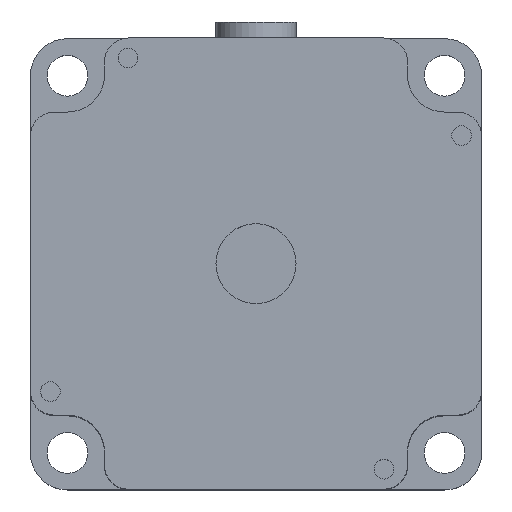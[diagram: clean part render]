
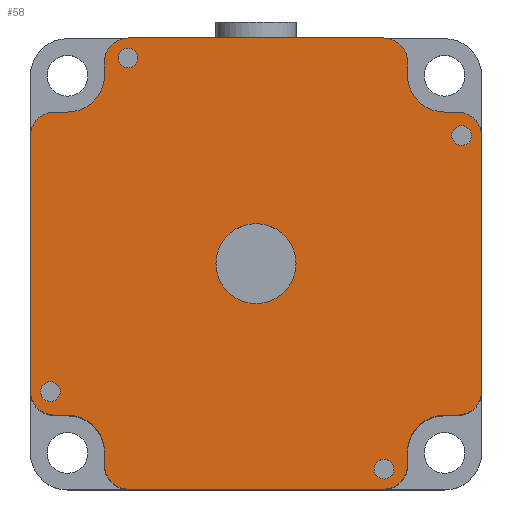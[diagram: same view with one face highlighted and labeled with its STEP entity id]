
A CAD part, top view. The second image highlights one B-rep face of the part: STEP entity #58.
In plain terms, the highlighted planar face has unit normal (0, 0, 1).
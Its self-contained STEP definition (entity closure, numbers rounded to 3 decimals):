
#58=ADVANCED_FACE('',(#5935,#5937,#5939,#5941,#5943,#5945),#5947,.T.);
#5935=FACE_BOUND('',#5936,.T.);
#5936=EDGE_LOOP('',(#10570,#10571,#10572,#10573,#10574,#10575,#10576,#10577,#10578,
#10579,#10580,#10581,#10582,#10583,#10584,#10585,#10586,#10587,#10588,#10589,#10590,
#10591,#10592,#10593));
#5937=FACE_BOUND('',#5938,.T.);
#5938=EDGE_LOOP('',(#10594));
#5939=FACE_BOUND('',#5940,.T.);
#5940=EDGE_LOOP('',(#10595));
#5941=FACE_BOUND('',#5942,.T.);
#5942=EDGE_LOOP('',(#10596));
#5943=FACE_BOUND('',#5944,.T.);
#5944=EDGE_LOOP('',(#10597));
#5945=FACE_BOUND('',#5946,.T.);
#5946=EDGE_LOOP('',(#10598));
#5947=PLANE('',#5948);
#5948=AXIS2_PLACEMENT_3D('',#5949,#5950,#5951);
#5949=CARTESIAN_POINT('',(0.,0.,56.));
#5950=DIRECTION('',(0.,0.,1.));
#5951=DIRECTION('',(1.,0.,0.));
#10570=ORIENTED_EDGE('',*,*,#14441,.F.);
#10571=ORIENTED_EDGE('',*,*,#14442,.T.);
#10572=ORIENTED_EDGE('',*,*,#14443,.F.);
#10573=ORIENTED_EDGE('',*,*,#14444,.T.);
#10574=ORIENTED_EDGE('',*,*,#14445,.T.);
#10575=ORIENTED_EDGE('',*,*,#14446,.T.);
#10576=ORIENTED_EDGE('',*,*,#14447,.F.);
#10577=ORIENTED_EDGE('',*,*,#14448,.T.);
#10578=ORIENTED_EDGE('',*,*,#14449,.F.);
#10579=ORIENTED_EDGE('',*,*,#14450,.T.);
#10580=ORIENTED_EDGE('',*,*,#14451,.T.);
#10581=ORIENTED_EDGE('',*,*,#14452,.T.);
#10582=ORIENTED_EDGE('',*,*,#14453,.F.);
#10583=ORIENTED_EDGE('',*,*,#14454,.T.);
#10584=ORIENTED_EDGE('',*,*,#14455,.F.);
#10585=ORIENTED_EDGE('',*,*,#14456,.T.);
#10586=ORIENTED_EDGE('',*,*,#14457,.T.);
#10587=ORIENTED_EDGE('',*,*,#14458,.T.);
#10588=ORIENTED_EDGE('',*,*,#14459,.F.);
#10589=ORIENTED_EDGE('',*,*,#14460,.T.);
#10590=ORIENTED_EDGE('',*,*,#14461,.F.);
#10591=ORIENTED_EDGE('',*,*,#14462,.T.);
#10592=ORIENTED_EDGE('',*,*,#14463,.T.);
#10593=ORIENTED_EDGE('',*,*,#14464,.T.);
#10594=ORIENTED_EDGE('',*,*,#14465,.T.);
#10595=ORIENTED_EDGE('',*,*,#14466,.T.);
#10596=ORIENTED_EDGE('',*,*,#14467,.T.);
#10597=ORIENTED_EDGE('',*,*,#14468,.T.);
#10598=ORIENTED_EDGE('',*,*,#14469,.T.);
#14441=EDGE_CURVE('',#16236,#16237,#16238,.T.);
#14442=EDGE_CURVE('',#16236,#16239,#16240,.T.);
#14443=EDGE_CURVE('',#16241,#16239,#16242,.T.);
#14444=EDGE_CURVE('',#16241,#16243,#16244,.F.);
#14445=EDGE_CURVE('',#16243,#16245,#16246,.F.);
#14446=EDGE_CURVE('',#16245,#16247,#16248,.F.);
#14447=EDGE_CURVE('',#16249,#16247,#16250,.T.);
#14448=EDGE_CURVE('',#16249,#16251,#16252,.T.);
#14449=EDGE_CURVE('',#16253,#16251,#16254,.T.);
#14450=EDGE_CURVE('',#16253,#16255,#16256,.F.);
#14451=EDGE_CURVE('',#16255,#16257,#16258,.F.);
#14452=EDGE_CURVE('',#16257,#16259,#16260,.F.);
#14453=EDGE_CURVE('',#16261,#16259,#16262,.T.);
#14454=EDGE_CURVE('',#16261,#16263,#16264,.T.);
#14455=EDGE_CURVE('',#16265,#16263,#16266,.T.);
#14456=EDGE_CURVE('',#16265,#16267,#16268,.F.);
#14457=EDGE_CURVE('',#16267,#16269,#16270,.F.);
#14458=EDGE_CURVE('',#16269,#16271,#16272,.F.);
#14459=EDGE_CURVE('',#16273,#16271,#16274,.T.);
#14460=EDGE_CURVE('',#16273,#16275,#16276,.T.);
#14461=EDGE_CURVE('',#16277,#16275,#16278,.T.);
#14462=EDGE_CURVE('',#16277,#16279,#16280,.F.);
#14463=EDGE_CURVE('',#16279,#16281,#16282,.F.);
#14464=EDGE_CURVE('',#16281,#16237,#16283,.F.);
#14465=EDGE_CURVE('',#16284,#16284,#16285,.F.);
#14466=EDGE_CURVE('',#16286,#16286,#16287,.F.);
#14467=EDGE_CURVE('',#16288,#16288,#16289,.F.);
#14468=EDGE_CURVE('',#16290,#16290,#16291,.F.);
#14469=EDGE_CURVE('',#16292,#16292,#16293,.F.);
#16236=VERTEX_POINT('',#19236);
#16237=VERTEX_POINT('',#19237);
#16238=CIRCLE('',#19238,3.);
#16239=VERTEX_POINT('',#19242);
#16240=LINE('',#19243,#19244);
#16241=VERTEX_POINT('',#19246);
#16242=CIRCLE('',#19247,3.);
#16243=VERTEX_POINT('',#19251);
#16244=LINE('',#19252,#19253);
#16245=VERTEX_POINT('',#19255);
#16246=CIRCLE('',#19256,4.63);
#16247=VERTEX_POINT('',#19260);
#16248=LINE('',#19261,#19262);
#16249=VERTEX_POINT('',#19264);
#16250=CIRCLE('',#19265,3.);
#16251=VERTEX_POINT('',#19269);
#16252=LINE('',#19270,#19271);
#16253=VERTEX_POINT('',#19273);
#16254=CIRCLE('',#19274,3.);
#16255=VERTEX_POINT('',#19278);
#16256=LINE('',#19279,#19280);
#16257=VERTEX_POINT('',#19282);
#16258=CIRCLE('',#19283,4.63);
#16259=VERTEX_POINT('',#19287);
#16260=LINE('',#19288,#19289);
#16261=VERTEX_POINT('',#19291);
#16262=CIRCLE('',#19292,3.);
#16263=VERTEX_POINT('',#19296);
#16264=LINE('',#19297,#19298);
#16265=VERTEX_POINT('',#19300);
#16266=CIRCLE('',#19301,3.);
#16267=VERTEX_POINT('',#19305);
#16268=LINE('',#19306,#19307);
#16269=VERTEX_POINT('',#19309);
#16270=CIRCLE('',#19310,4.63);
#16271=VERTEX_POINT('',#19314);
#16272=LINE('',#19315,#19316);
#16273=VERTEX_POINT('',#19318);
#16274=CIRCLE('',#19319,3.);
#16275=VERTEX_POINT('',#19323);
#16276=LINE('',#19324,#19325);
#16277=VERTEX_POINT('',#19327);
#16278=CIRCLE('',#19328,3.);
#16279=VERTEX_POINT('',#19332);
#16280=LINE('',#19333,#19334);
#16281=VERTEX_POINT('',#19336);
#16282=CIRCLE('',#19337,4.63);
#16283=LINE('',#19341,#19342);
#16284=VERTEX_POINT('',#19344);
#16285=CIRCLE('',#19345,1.229);
#16286=VERTEX_POINT('',#19349);
#16287=CIRCLE('',#19350,1.229);
#16288=VERTEX_POINT('',#19354);
#16289=CIRCLE('',#19355,1.229);
#16290=VERTEX_POINT('',#19359);
#16291=CIRCLE('',#19360,5.);
#16292=VERTEX_POINT('',#19364);
#16293=CIRCLE('',#19365,1.229);
#19236=CARTESIAN_POINT('',(28.2,-15.94,56.));
#19237=CARTESIAN_POINT('',(25.2,-18.94,56.));
#19238=AXIS2_PLACEMENT_3D('',#19239,#19240,#19241);
#19239=CARTESIAN_POINT('',(25.2,-15.94,56.));
#19240=DIRECTION('',(0.,0.,-1.));
#19241=DIRECTION('',(1.,0.,0.));
#19242=CARTESIAN_POINT('',(28.2,15.94,56.));
#19243=CARTESIAN_POINT('',(28.2,-15.94,56.));
#19244=VECTOR('',#19245,1.);
#19245=DIRECTION('',(0.,1.,0.));
#19246=CARTESIAN_POINT('',(25.2,18.94,56.));
#19247=AXIS2_PLACEMENT_3D('',#19248,#19249,#19250);
#19248=CARTESIAN_POINT('',(25.2,15.94,56.));
#19249=DIRECTION('',(0.,0.,-1.));
#19250=DIRECTION('',(0.,1.,0.));
#19251=CARTESIAN_POINT('',(23.57,18.94,56.));
#19252=CARTESIAN_POINT('',(23.57,18.94,56.));
#19253=VECTOR('',#19254,1.);
#19254=DIRECTION('',(1.,0.,0.));
#19255=CARTESIAN_POINT('',(18.94,23.57,56.));
#19256=AXIS2_PLACEMENT_3D('',#19257,#19258,#19259);
#19257=CARTESIAN_POINT('',(23.57,23.57,56.));
#19258=DIRECTION('',(0.,0.,1.));
#19259=DIRECTION('',(-1.,0.,0.));
#19260=CARTESIAN_POINT('',(18.94,25.2,56.));
#19261=CARTESIAN_POINT('',(18.94,25.2,56.));
#19262=VECTOR('',#19263,1.);
#19263=DIRECTION('',(0.,-1.,0.));
#19264=CARTESIAN_POINT('',(15.94,28.2,56.));
#19265=AXIS2_PLACEMENT_3D('',#19266,#19267,#19268);
#19266=CARTESIAN_POINT('',(15.94,25.2,56.));
#19267=DIRECTION('',(0.,0.,-1.));
#19268=DIRECTION('',(0.,1.,0.));
#19269=CARTESIAN_POINT('',(-15.94,28.2,56.));
#19270=CARTESIAN_POINT('',(15.94,28.2,56.));
#19271=VECTOR('',#19272,1.);
#19272=DIRECTION('',(-1.,0.,0.));
#19273=CARTESIAN_POINT('',(-18.94,25.2,56.));
#19274=AXIS2_PLACEMENT_3D('',#19275,#19276,#19277);
#19275=CARTESIAN_POINT('',(-15.94,25.2,56.));
#19276=DIRECTION('',(0.,0.,-1.));
#19277=DIRECTION('',(-1.,0.,0.));
#19278=CARTESIAN_POINT('',(-18.94,23.57,56.));
#19279=CARTESIAN_POINT('',(-18.94,23.57,56.));
#19280=VECTOR('',#19281,1.);
#19281=DIRECTION('',(0.,1.,0.));
#19282=CARTESIAN_POINT('',(-23.57,18.94,56.));
#19283=AXIS2_PLACEMENT_3D('',#19284,#19285,#19286);
#19284=CARTESIAN_POINT('',(-23.57,23.57,56.));
#19285=DIRECTION('',(-0.,0.,1.));
#19286=DIRECTION('',(0.,-1.,0.));
#19287=CARTESIAN_POINT('',(-25.2,18.94,56.));
#19288=CARTESIAN_POINT('',(-25.2,18.94,56.));
#19289=VECTOR('',#19290,1.);
#19290=DIRECTION('',(1.,0.,0.));
#19291=CARTESIAN_POINT('',(-28.2,15.94,56.));
#19292=AXIS2_PLACEMENT_3D('',#19293,#19294,#19295);
#19293=CARTESIAN_POINT('',(-25.2,15.94,56.));
#19294=DIRECTION('',(0.,0.,-1.));
#19295=DIRECTION('',(-1.,0.,0.));
#19296=CARTESIAN_POINT('',(-28.2,-15.94,56.));
#19297=CARTESIAN_POINT('',(-28.2,15.94,56.));
#19298=VECTOR('',#19299,1.);
#19299=DIRECTION('',(0.,-1.,0.));
#19300=CARTESIAN_POINT('',(-25.2,-18.94,56.));
#19301=AXIS2_PLACEMENT_3D('',#19302,#19303,#19304);
#19302=CARTESIAN_POINT('',(-25.2,-15.94,56.));
#19303=DIRECTION('',(0.,0.,-1.));
#19304=DIRECTION('',(0.,-1.,0.));
#19305=CARTESIAN_POINT('',(-23.57,-18.94,56.));
#19306=CARTESIAN_POINT('',(-23.57,-18.94,56.));
#19307=VECTOR('',#19308,1.);
#19308=DIRECTION('',(-1.,0.,0.));
#19309=CARTESIAN_POINT('',(-18.94,-23.57,56.));
#19310=AXIS2_PLACEMENT_3D('',#19311,#19312,#19313);
#19311=CARTESIAN_POINT('',(-23.57,-23.57,56.));
#19312=DIRECTION('',(0.,0.,1.));
#19313=DIRECTION('',(1.,0.,0.));
#19314=CARTESIAN_POINT('',(-18.94,-25.2,56.));
#19315=CARTESIAN_POINT('',(-18.94,-25.2,56.));
#19316=VECTOR('',#19317,1.);
#19317=DIRECTION('',(0.,1.,0.));
#19318=CARTESIAN_POINT('',(-15.94,-28.2,56.));
#19319=AXIS2_PLACEMENT_3D('',#19320,#19321,#19322);
#19320=CARTESIAN_POINT('',(-15.94,-25.2,56.));
#19321=DIRECTION('',(0.,0.,-1.));
#19322=DIRECTION('',(0.,-1.,0.));
#19323=CARTESIAN_POINT('',(15.94,-28.2,56.));
#19324=CARTESIAN_POINT('',(-15.94,-28.2,56.));
#19325=VECTOR('',#19326,1.);
#19326=DIRECTION('',(1.,0.,0.));
#19327=CARTESIAN_POINT('',(18.94,-25.2,56.));
#19328=AXIS2_PLACEMENT_3D('',#19329,#19330,#19331);
#19329=CARTESIAN_POINT('',(15.94,-25.2,56.));
#19330=DIRECTION('',(0.,0.,-1.));
#19331=DIRECTION('',(1.,0.,0.));
#19332=CARTESIAN_POINT('',(18.94,-23.57,56.));
#19333=CARTESIAN_POINT('',(18.94,-23.57,56.));
#19334=VECTOR('',#19335,1.);
#19335=DIRECTION('',(0.,-1.,0.));
#19336=CARTESIAN_POINT('',(23.57,-18.94,56.));
#19337=AXIS2_PLACEMENT_3D('',#19338,#19339,#19340);
#19338=CARTESIAN_POINT('',(23.57,-23.57,56.));
#19339=DIRECTION('',(0.,-0.,1.));
#19340=DIRECTION('',(0.,1.,0.));
#19341=CARTESIAN_POINT('',(25.2,-18.94,56.));
#19342=VECTOR('',#19343,1.);
#19343=DIRECTION('',(-1.,0.,0.));
#19344=CARTESIAN_POINT('',(-25.7,-14.771,56.));
#19345=AXIS2_PLACEMENT_3D('',#19346,#19347,#19348);
#19346=CARTESIAN_POINT('',(-25.7,-16.,56.));
#19347=DIRECTION('',(0.,0.,1.));
#19348=DIRECTION('',(0.,1.,0.));
#19349=CARTESIAN_POINT('',(14.771,-25.7,56.));
#19350=AXIS2_PLACEMENT_3D('',#19351,#19352,#19353);
#19351=CARTESIAN_POINT('',(16.,-25.7,56.));
#19352=DIRECTION('',(0.,0.,1.));
#19353=DIRECTION('',(-1.,0.,0.));
#19354=CARTESIAN_POINT('',(25.7,14.771,56.));
#19355=AXIS2_PLACEMENT_3D('',#19356,#19357,#19358);
#19356=CARTESIAN_POINT('',(25.7,16.,56.));
#19357=DIRECTION('',(0.,0.,1.));
#19358=DIRECTION('',(0.,-1.,0.));
#19359=CARTESIAN_POINT('',(5.,0.,56.));
#19360=AXIS2_PLACEMENT_3D('',#19361,#19362,#19363);
#19361=CARTESIAN_POINT('',(0.,0.,56.));
#19362=DIRECTION('',(0.,0.,1.));
#19363=DIRECTION('',(1.,0.,0.));
#19364=CARTESIAN_POINT('',(-14.771,25.7,56.));
#19365=AXIS2_PLACEMENT_3D('',#19366,#19367,#19368);
#19366=CARTESIAN_POINT('',(-16.,25.7,56.));
#19367=DIRECTION('',(0.,0.,1.));
#19368=DIRECTION('',(1.,0.,0.));
